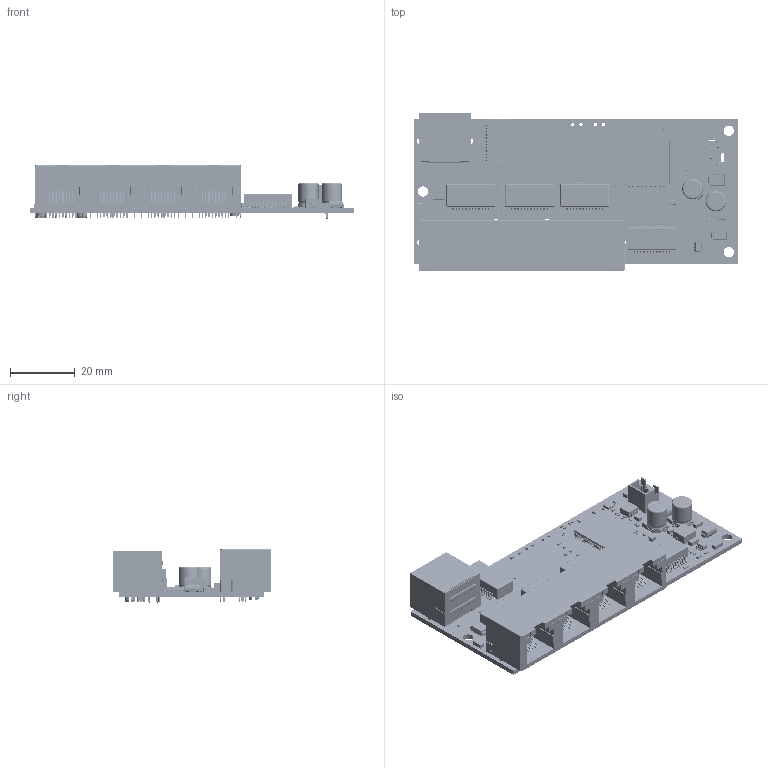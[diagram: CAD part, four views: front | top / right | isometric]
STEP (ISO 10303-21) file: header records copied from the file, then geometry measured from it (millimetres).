
FILE_DESCRIPTION(('Designed by EasyEDA Pro'),'2;1');
FILE_NAME('Open CASCADE Shape Model','2024-05-31T15:37:50',('Author'),( 'Open CASCADE'),'Open CASCADE STEP processor 7.8','Open CASCADE 7.8' ,'Unknown');
FILE_SCHEMA(('AUTOMOTIVE_DESIGN { 1 0 10303 214 1 1 1 1 }'));
Length unit declared in the file: millimetre
Products named in the file (133): PCBModel; Board; gnEv-C1; C0805; SOLID; gnEv-C51; gnEv-C3; gnEv-C5; 1206; gnEv-C6; gnEv-C7; gnEv-C8; gnEv-C4; gnEv-C34; 0402; gnEv-C35; gnEv-C36; gnEv-C37; gnEv-C55; C0402; gnEv-C101; gnEv-C100; gnEv-C116; gnEv-C2; gnEv-C127; gnEv-C93; gnEv-C94; gnEv-C95; gnEv-C96; gnEv-C97; gnEv-C98; gnEv-C102; gnEv-C103; gnEv-C104; gnEv-C105; gnEv-C106; gnEv-C107; gnEv-C108; gnEv-C110; gnEv-C112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
Assembly tree (203 placements, depth 4):
  PCBModel
    Board
    gnEv-C1
      C0805
        SOLID
    gnEv-C51
      C0805
        SOLID
    gnEv-C3
      C0805
        SOLID
    gnEv-C5
      1206
        SOLID
    gnEv-C6
      1206
        SOLID
    gnEv-C7
      1206
        SOLID
    gnEv-C8
      1206
        SOLID
    gnEv-C4
      1206
        SOLID
    gnEv-C34
      0402
        SOLID
    gnEv-C35
      0402
        SOLID
    gnEv-C36
      0402
        SOLID
    gnEv-C37
      0402
        SOLID
    gnEv-C55
      C0402
        SOLID
    gnEv-C101
      C0402
        SOLID
    gnEv-C100
      C0402
        SOLID
    gnEv-C116
      C0402
        SOLID
    gnEv-C2
      C0402
        SOLID
    gnEv-C127
      C0402
        SOLID
    gnEv-C93
      C0402
        SOLID
    gnEv-C94
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Bounding box: 99.97 x 49.02 x 16.6 mm (x, y, z)
Volume: 20831.2 mm3; surface area: 29818.9 mm2
Topology: 250 solids, 250 shells, 34769 faces, 93737 edges, 61130 vertices
Faces by surface type: plane 19977, bspline 9609, cylinder 4451, sphere 622, torus 100, cone 10
Full cylindrical faces by diameter (mm): 0.003 x3, 0.85 x4, 0.9 x56, 1 x6, 2.54 x1, 3.2 x3, 3.3 x4
Entity records: 427189 total; most frequent: CARTESIAN_POINT 100308, ORIENTED_EDGE 54068, DIRECTION 41054, EDGE_CURVE 27034, LINE 19344, VECTOR 19344, VERTEX_POINT 17692, FACE_BOUND 10910
